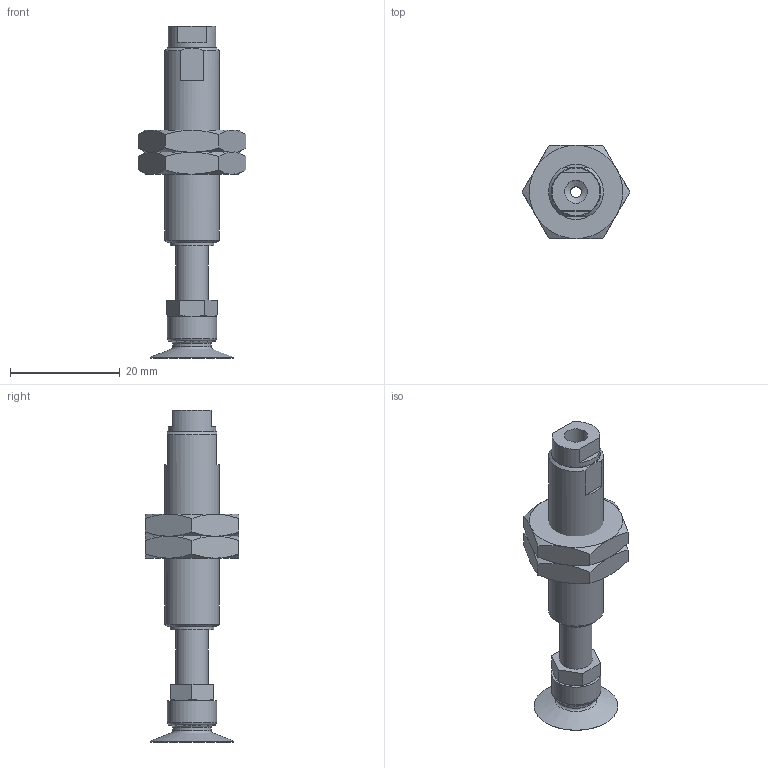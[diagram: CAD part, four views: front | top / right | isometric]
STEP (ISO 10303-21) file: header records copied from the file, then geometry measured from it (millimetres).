
FILE_DESCRIPTION(('STEP AP203'),'1');
FILE_NAME('-LB.stp','2025-03-28T07:58:44',(' '),(' '),'Spatial InterOp 3D',' ',' ');
FILE_SCHEMA(('CONFIG_CONTROL_DESIGN'));
Length unit declared in the file: millimetre
Products named in the file (8): BNAPFTH-10A-10-※-LB; __; BODY; NUT; TN-PS-10-M5; Setting screws-TN-PS-10-M5; BPAG-15A-※
Assembly tree (7 placements, depth 3):
  BNAPFTH-10A-10-※-LB
    __
    BODY
    NUT
    NUT
    TN-PS-10-M5
      Setting screws-TN-PS-10-M5
    BPAG-15A-※
Bounding box: 19.63 x 17 x 60.5 mm (x, y, z)
Volume: 5068.5 mm3; surface area: 4527.7 mm2
Topology: 6 solids, 6 shells, 157 faces, 312 edges, 191 vertices
Faces by surface type: plane 74, cone 40, cylinder 35, torus 8
Full cylindrical faces by diameter (mm): 0.9 x16, 2 x3, 3.9 x1, 4 x2, 4.2 x2, 5 x1, 6 x3, 7 x1, 8 x1, 8.7 x1, 9 x3, 10 x1
Entity records: 4234 total; most frequent: CARTESIAN_POINT 834, DIRECTION 648, ORIENTED_EDGE 506, AXIS2_PLACEMENT_3D 293, EDGE_CURVE 253, EDGE_LOOP 244, FACE_OUTER_BOUND 200, VERTEX_POINT 183
